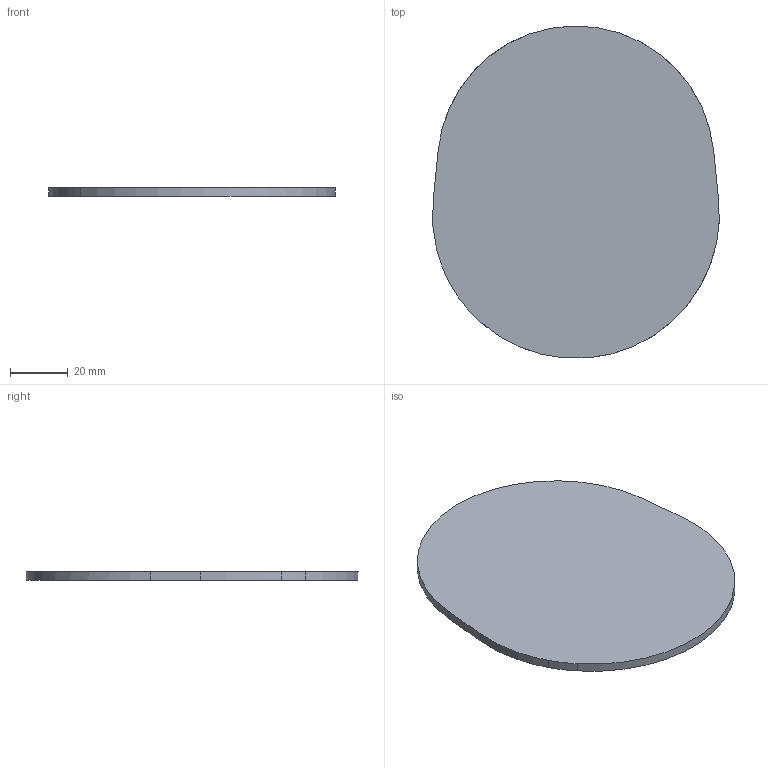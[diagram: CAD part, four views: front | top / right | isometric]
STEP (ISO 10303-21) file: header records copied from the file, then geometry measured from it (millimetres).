
FILE_DESCRIPTION (( 'STEP AP214' ), '1' );
FILE_NAME ('P-00119 - Valve Door Gasket - v2.0.1_Default Configuration.STEP', '2026-06-12T21:52:23', ( '' ), ( '' ), 'SwSTEP 2.0', 'SolidWorks 2023', '' );
FILE_SCHEMA (( 'AUTOMOTIVE_DESIGN' ));
Length unit declared in the file: inch
Products named in the file (1): P-00119 - Valve Door Gasket - v2.0.1_Default Configuration
Bounding box: 99.12 x 114.9 x 3.05 mm (x, y, z)
Volume: 27426.3 mm3; surface area: 19517.6 mm2
Topology: 1 solids, 1 shells, 11 faces, 24 edges, 16 vertices
Faces by surface type: plane 5, cylinder 3, bspline 3
Entity records: 902 total; most frequent: CARTESIAN_POINT 644, ORIENTED_EDGE 48, DIRECTION 42, EDGE_CURVE 24, VERTEX_POINT 16, AXIS2_PLACEMENT_3D 15, VECTOR 12, LINE 12
